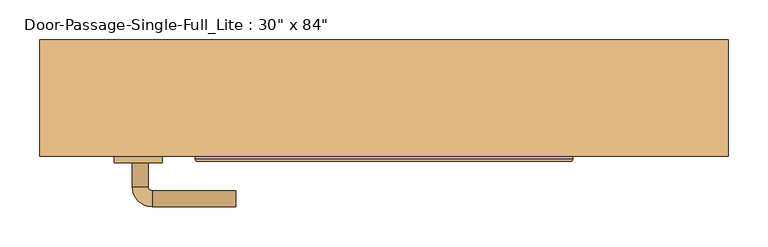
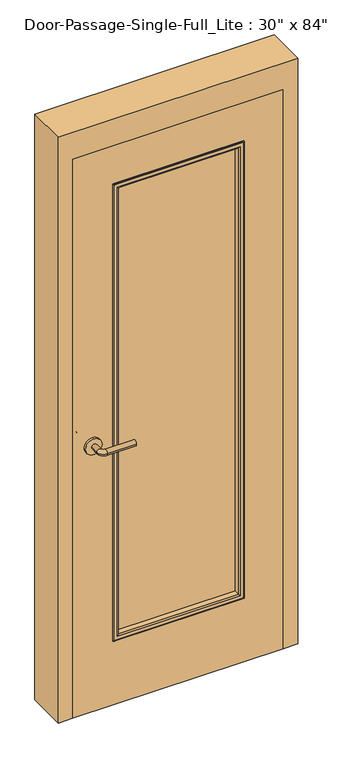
"""IFC4 building model written with IfcOpenShell, lengths in millimetres: door geometry."""

from ifc_helpers import new_model, si_unit, point, frame, frame_2d, origin, place, context, project, spatial, polyline, circle_curve, ellipse_curve, trimmed, segment, composite_curve, outline, extrude, faceted_brep, source, transform, mapped, element, save
from ifc_brep_helpers import plane_surface, cylinder_surface, revolved_surface, advanced_brep


def door_6cd5b398(model_context):
    return source(origin(), model_context, "Body", "SolidModel", [
        advanced_brep(
        [(-315.990625, -80.9, 1016.0), (-295.990625, -80.9, 1016.0), (-315.990625, -50.9, 1016.0), (-295.990625, -50.9, 1016.0), (-290.990625, -45.9, 1016.0), (-290.990625, -25.9, 1016.0), (-185.990625, -25.9, 1016.0), (-185.990625, -45.9, 1016.0)],
        [
            (0, 1, circle_curve(frame((-305.990625, -80.9, 1016.0), z_axis=(0.0, -1.0, 0.0), x_axis=(1.0, 0.0, 0.0)), 10.0)),
            (1, 0, circle_curve(frame((-305.990625, -80.9, 1016.0), z_axis=(0.0, -1.0, 0.0), x_axis=(1.0, 0.0, 0.0)), 10.0)),
            (0, 2),
            (2, 3, circle_curve(frame((-305.990625, -50.9, 1016.0), z_axis=(0.0, -1.0, 0.0), x_axis=(1.0, 0.0, 0.0)), 10.0)),
            (3, 1),
            (3, 2, circle_curve(frame((-305.990625, -50.9, 1016.0), z_axis=(0.0, -1.0, 0.0), x_axis=(1.0, 0.0, 0.0)), 10.0)),
            (4, 3, circle_curve(frame((-290.990625, -50.9, 1016.0), z_axis=(0.0, 0.0, 1.0), x_axis=(-1.0, 0.0, 0.0)), 5.0)),
            (2, 5, circle_curve(frame((-290.990625, -50.9, 1016.0), z_axis=(0.0, 0.0, -1.0), x_axis=(-1.0, 0.0, 0.0)), 25.0)),
            (5, 4, circle_curve(frame((-290.990625, -35.9, 1016.0), z_axis=(-1.0, 0.0, 0.0), x_axis=(0.0, -1.0, 0.0)), 10.0)),
            (4, 5, circle_curve(frame((-290.990625, -35.9, 1016.0), z_axis=(-1.0, 0.0, 0.0), x_axis=(0.0, -1.0, 0.0)), 10.0)),
            (6, 7, circle_curve(frame((-185.990625, -35.9, 1016.0), z_axis=(1.0, 0.0, 0.0), x_axis=(0.0, -1.0, 0.0)), 10.0)),
            (7, 6, circle_curve(frame((-185.990625, -35.9, 1016.0), z_axis=(1.0, 0.0, 0.0), x_axis=(0.0, -1.0, 0.0)), 10.0)),
            (5, 6),
            (7, 4),
        ],
        [
            plane_surface(frame((-305.990625, -80.9, 1016.0), z_axis=(0.0, -1.0, 0.0), x_axis=(0.0, 0.0, 1.0))),
            cylinder_surface(frame((-305.990625, -80.9, 1016.0), z_axis=(0.0, -1.0, 0.0), x_axis=(1.0, 0.0, 0.0)), 10.0),
            revolved_surface(trimmed(ellipse_curve(frame((-305.990625, -50.9, 1016.0), z_axis=(0.0, -1.0, 0.0), x_axis=(1.0, 0.0, 0.0)), 10.0, 10.0), [point((-315.990625, -50.9, 1016.0))], [point((-295.990625, -50.9, 1016.0))], True, "CARTESIAN"), (-290.990625, -50.9, 1016.0), (0.0, 0.0, -1.0)),
            revolved_surface(trimmed(ellipse_curve(frame((-305.990625, -50.9, 1016.0), z_axis=(0.0, -1.0, 0.0), x_axis=(1.0, 0.0, 0.0)), 10.0, 10.0), [point((-295.990625, -50.9, 1016.0))], [point((-315.990625, -50.9, 1016.0))], True, "CARTESIAN"), (-290.990625, -50.9, 1016.0), (0.0, 0.0, -1.0)),
            plane_surface(frame((-185.990625, -35.9, 1016.0), z_axis=(1.0, 0.0, 0.0), x_axis=(0.0, 0.0, 1.0))),
            cylinder_surface(frame((-290.990625, -35.9, 1016.0), z_axis=(-1.0, 0.0, 0.0), x_axis=(0.0, -1.0, 0.0)), 10.0),
        ],
        [
            (0, [[1, 2]]),
            (1, [[-1, 3, 4, 5]]),
            (1, [[-2, -5, 6, -3]]),
            (2, [[7, -4, 8, 9]]),
            (3, [[-8, -6, -7, 10]]),
            (4, [[11, 12]]),
            (5, [[-9, 13, -12, 14]]),
            (5, [[-10, -14, -11, -13]]),
        ],
    ),
        extrude(outline(composite_curve([segment(trimmed(circle_curve(frame_2d((1016.0, -308.490625)), 30.0), [point((1016.0, -338.490625))], [point((1016.0, -278.490625))], False, "CARTESIAN"), True, "CONTINUOUS"), segment(trimmed(circle_curve(frame_2d((1016.0, -308.490625)), 30.0), [point((1016.0, -278.490625))], [point((1016.0, -338.490625))], False, "CARTESIAN"), True, "CONTINUOUS")], self_intersect=False)), frame((0.0, -88.9, 0.0), z_axis=(0.0, 1.0, 0.0), x_axis=(0.0, 0.0, 1.0)), (0.0, 0.0, 1.0), 8.0),
        advanced_brep(
        [(-315.990625, -141.35, 1016.0), (-295.990625, -141.35, 1016.0), (-295.990625, -171.35, 1016.0), (-315.990625, -171.35, 1016.0), (-290.990625, -176.35, 1016.0), (-290.990625, -196.35, 1016.0), (-185.990625, -196.35, 1016.0), (-185.990625, -176.35, 1016.0)],
        [
            (0, 1, circle_curve(frame((-305.990625, -141.35, 1016.0), z_axis=(0.0, 1.0, 0.0), x_axis=(1.0, 0.0, 0.0)), 10.0)),
            (1, 0, circle_curve(frame((-305.990625, -141.35, 1016.0), z_axis=(0.0, 1.0, 0.0), x_axis=(1.0, 0.0, 0.0)), 10.0)),
            (1, 2),
            (2, 3, circle_curve(frame((-305.990625, -171.35, 1016.0), z_axis=(0.0, 1.0, 0.0), x_axis=(1.0, 0.0, 0.0)), 10.0)),
            (3, 0),
            (3, 2, circle_curve(frame((-305.990625, -171.35, 1016.0), z_axis=(0.0, 1.0, 0.0), x_axis=(1.0, 0.0, 0.0)), 10.0)),
            (4, 5, circle_curve(frame((-290.990625, -186.35, 1016.0), z_axis=(-1.0, 0.0, 0.0), x_axis=(0.0, 1.0, 0.0)), 10.0)),
            (5, 3, circle_curve(frame((-290.990625, -171.35, 1016.0), z_axis=(0.0, 0.0, -1.0), x_axis=(-1.0, 0.0, 0.0)), 25.0)),
            (2, 4, circle_curve(frame((-290.990625, -171.35, 1016.0), z_axis=(0.0, 0.0, 1.0), x_axis=(-1.0, 0.0, 0.0)), 5.0)),
            (5, 4, circle_curve(frame((-290.990625, -186.35, 1016.0), z_axis=(-1.0, 0.0, 0.0), x_axis=(0.0, 1.0, 0.0)), 10.0)),
            (6, 7, circle_curve(frame((-185.990625, -186.35, 1016.0), z_axis=(1.0, 0.0, 0.0), x_axis=(0.0, 1.0, 0.0)), 10.0)),
            (7, 6, circle_curve(frame((-185.990625, -186.35, 1016.0), z_axis=(1.0, 0.0, 0.0), x_axis=(0.0, 1.0, 0.0)), 10.0)),
            (4, 7),
            (6, 5),
        ],
        [
            plane_surface(frame((-305.990625, -141.35, 1016.0), z_axis=(0.0, 1.0, 0.0), x_axis=(0.0, 0.0, 1.0))),
            cylinder_surface(frame((-305.990625, -141.35, 1016.0), z_axis=(0.0, 1.0, 0.0), x_axis=(1.0, 0.0, 0.0)), 10.0),
            revolved_surface(trimmed(ellipse_curve(frame((-305.990625, -171.35, 1016.0), z_axis=(0.0, -1.0, 0.0), x_axis=(1.0, 0.0, 0.0)), 10.0, 10.0), [point((-315.990625, -171.35, 1016.0))], [point((-295.990625, -171.35, 1016.0))], True, "CARTESIAN"), (-290.990625, -171.35, 1016.0), (0.0, 0.0, -1.0)),
            revolved_surface(trimmed(ellipse_curve(frame((-305.990625, -171.35, 1016.0), z_axis=(0.0, -1.0, 0.0), x_axis=(1.0, 0.0, 0.0)), 10.0, 10.0), [point((-295.990625, -171.35, 1016.0))], [point((-315.990625, -171.35, 1016.0))], True, "CARTESIAN"), (-290.990625, -171.35, 1016.0), (0.0, 0.0, -1.0)),
            plane_surface(frame((-185.990625, -186.35, 1016.0), z_axis=(1.0, 0.0, 0.0), x_axis=(0.0, 0.0, 1.0))),
            cylinder_surface(frame((-290.990625, -186.35, 1016.0), z_axis=(-1.0, 0.0, 0.0), x_axis=(0.0, 1.0, 0.0)), 10.0),
        ],
        [
            (0, [[1, 2]]),
            (1, [[3, 4, 5, -2]]),
            (1, [[-5, 6, -3, -1]]),
            (2, [[7, 8, -4, 9]]),
            (3, [[10, -9, -6, -8]]),
            (4, [[11, 12]]),
            (5, [[13, -11, 14, -7]]),
            (5, [[-14, -12, -13, -10]]),
        ],
    ),
        extrude(outline(composite_curve([segment(trimmed(circle_curve(frame_2d((1016.0, -308.490625)), 30.0), [point((1016.0, -338.490625))], [point((1016.0, -278.490625))], False, "CARTESIAN"), True, "CONTINUOUS"), segment(trimmed(circle_curve(frame_2d((1016.0, -308.490625)), 30.0), [point((1016.0, -278.490625))], [point((1016.0, -338.490625))], False, "CARTESIAN"), True, "CONTINUOUS")], self_intersect=False)), frame((0.0, -141.35, 0.0), z_axis=(0.0, 1.0, 0.0), x_axis=(0.0, 0.0, 1.0)), (0.0, 0.0, 1.0), 8.0),
        extrude(outline(polyline([(228.6, -107.95), (228.6, -114.3), (-228.6, -114.3), (-228.6, -107.95), (228.6, -107.95)])), frame((0.0, 0.0, 254.0), z_axis=(0.0, 0.0, 1.0), x_axis=(1.0, 0.0, 0.0)), (0.0, 0.0, 1.0), 1727.2),
        faceted_brep([(381.0, -84.1375, 0.0), (365.125, -84.1375, 0.0), (365.125, -36.5125, 0.0), (381.0, -36.5125, 0.0), (381.0, 12.7, 0.0), (431.8, 12.7, 0.0), (431.8, -133.35, 0.0), (381.0, -133.35, 0.0), (381.0, -133.35, 2133.6), (381.0, -84.1375, 2133.6), (431.8, -133.35, 2235.2), (-431.8, -133.35, 2235.2), (-431.8, -133.35, 0.0), (-381.0, -133.35, 0.0), (-381.0, -133.35, 2133.6), (431.8, 12.7, 2235.2), (381.0, 12.7, 2133.6), (-381.0, 12.7, 2133.6), (-381.0, 12.7, 0.0), (-431.8, 12.7, 0.0), (-431.8, 12.7, 2235.2), (381.0, -36.5125, 2133.6), (365.125, -36.5125, 2117.725), (-365.125, -36.5125, 2117.725), (-365.125, -36.5125, 0.0), (-381.0, -36.5125, 0.0), (-381.0, -36.5125, 2133.6), (365.125, -84.1375, 2117.725), (-381.0, -84.1375, 2133.6), (-381.0, -84.1375, 0.0), (-365.125, -84.1375, 0.0), (-365.125, -84.1375, 2117.725)], [[[0, 1, 2, 3, 4, 5, 6, 7]], [[7, 8, 9, 0]], [[6, 10, 11, 12, 13, 14, 8, 7]], [[5, 15, 10, 6]], [[4, 16, 17, 18, 19, 20, 15, 5]], [[3, 21, 16, 4]], [[2, 22, 23, 24, 25, 26, 21, 3]], [[1, 27, 22, 2]], [[0, 9, 28, 29, 30, 31, 27, 1]], [[8, 14, 28, 9]], [[16, 21, 26, 17]], [[22, 27, 31, 23]], [[12, 19, 18, 25, 24, 30, 29, 13]], [[13, 29, 28, 14]], [[11, 20, 19, 12]], [[17, 26, 25, 18]], [[23, 31, 30, 24]], [[15, 20, 11, 10]]]),
        extrude(outline(polyline([(2133.6, -381.0), (0.0, -381.0), (0.0, 381.0), (2133.6, 381.0), (2133.6, -381.0)]), holes=[polyline([(1981.2, -228.6), (1981.2, 228.6), (254.0, 228.6), (254.0, -228.6), (1981.2, -228.6)])]), frame((0.0, -133.35, 0.0), z_axis=(0.0, 1.0, 0.0), x_axis=(0.0, 0.0, 1.0)), (0.0, 0.0, 1.0), 44.45),
        advanced_brep(
        [(-228.6, -114.3, 1981.2), (-228.6, -114.3, 254.0), (-228.6, -133.35, 254.0), (-228.6, -133.35, 1981.2), (-216.6, -134.35, 1969.2), (-216.6, -134.35, 266.0), (-216.6, -114.3, 266.0), (-216.6, -114.3, 1969.2), (-221.6, -139.35, 1974.2), (-221.6, -139.35, 261.0), (-236.6, -137.35, 1989.2), (-236.6, -137.35, 246.0), (-234.6, -139.35, 248.0), (-234.6, -139.35, 1987.2), (-236.6, -133.35, 1989.2), (-236.6, -133.35, 246.0), (228.6, -114.3, 254.0), (228.6, -133.35, 254.0), (216.6, -134.35, 266.0), (216.6, -114.3, 266.0), (221.6, -139.35, 261.0), (236.6, -137.35, 246.0), (234.6, -139.35, 248.0), (236.6, -133.35, 246.0), (228.6, -114.3, 1981.2), (228.6, -133.35, 1981.2), (216.6, -134.35, 1969.2), (216.6, -114.3, 1969.2), (221.6, -139.35, 1974.2), (236.6, -137.35, 1989.2), (234.6, -139.35, 1987.2), (236.6, -133.35, 1989.2)],
        [
            (0, 1),
            (1, 2),
            (2, 3),
            (3, 0),
            (4, 5),
            (5, 6),
            (6, 7),
            (7, 4),
            (8, 9),
            (9, 5, ellipse_curve(frame((-221.6, -134.35, 261.0), z_axis=(-0.7071067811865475, 0.0, 0.7071067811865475), x_axis=(0.7071067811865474, 0.0, 0.7071067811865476)), 7.0710678, 5.0)),
            (4, 8, ellipse_curve(frame((-221.6, -134.35, 1974.2), z_axis=(-0.7071067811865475, 0.0, -0.7071067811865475), x_axis=(-0.7071067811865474, 0.0, 0.7071067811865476)), 7.0710678, 5.0)),
            (10, 11),
            (11, 12, ellipse_curve(frame((-234.6, -137.35, 248.0), z_axis=(-0.7071067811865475, 0.0, 0.7071067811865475), x_axis=(0.7071067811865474, 0.0, 0.7071067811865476)), 2.8284271, 2.0)),
            (12, 13),
            (13, 10, ellipse_curve(frame((-234.6, -137.35, 1987.2), z_axis=(-0.7071067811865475, 0.0, -0.7071067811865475), x_axis=(-0.7071067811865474, 0.0, 0.7071067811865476)), 2.8284271, 2.0)),
            (14, 15),
            (15, 11),
            (10, 14),
            (1, 16),
            (16, 17),
            (17, 2),
            (5, 18),
            (18, 19),
            (19, 6),
            (9, 20),
            (20, 18, ellipse_curve(frame((221.6, -134.35, 261.0), z_axis=(-0.7071067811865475, 0.0, -0.7071067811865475), x_axis=(-0.7071067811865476, 0.0, 0.7071067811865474)), 7.0710678, 5.0)),
            (11, 21),
            (21, 22, ellipse_curve(frame((234.6, -137.35, 248.0), z_axis=(-0.7071067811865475, 0.0, -0.7071067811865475), x_axis=(-0.7071067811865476, 0.0, 0.7071067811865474)), 2.8284271, 2.0)),
            (22, 12),
            (15, 23),
            (23, 21),
            (16, 24),
            (24, 25),
            (25, 17),
            (18, 26),
            (26, 27),
            (27, 19),
            (20, 28),
            (28, 26, ellipse_curve(frame((221.6, -134.35, 1974.2), z_axis=(0.7071067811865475, 0.0, -0.7071067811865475), x_axis=(-0.7071067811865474, 0.0, -0.7071067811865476)), 7.0710678, 5.0)),
            (21, 29),
            (29, 30, ellipse_curve(frame((234.6, -137.35, 1987.2), z_axis=(0.7071067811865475, 0.0, -0.7071067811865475), x_axis=(-0.7071067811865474, 0.0, -0.7071067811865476)), 2.8284271, 2.0)),
            (30, 22),
            (23, 31),
            (31, 29),
            (14, 31),
            (25, 3),
            (24, 0),
            (27, 7),
            (26, 4),
            (28, 8),
            (30, 13),
            (29, 10),
        ],
        [
            plane_surface(frame((-228.6, -133.35, 1981.2), z_axis=(-1.0, 0.0, 0.0), x_axis=(0.0, 0.0, -1.0))),
            plane_surface(frame((-216.6, -114.3, 1969.2), z_axis=(1.0, 0.0, 0.0), x_axis=(0.0, 0.0, -1.0))),
            cylinder_surface(frame((-221.6, -134.35, 1981.2), z_axis=(0.0, 0.0, 1.0), x_axis=(-1.0, 0.0, 0.0)), 5.0),
            cylinder_surface(frame((-234.6, -137.35, 1981.2), z_axis=(0.0, 0.0, 1.0), x_axis=(-1.0, 0.0, 0.0)), 2.0),
            plane_surface(frame((-236.6, -137.35, 1989.2), z_axis=(-1.0, 0.0, 0.0), x_axis=(0.0, 0.0, -1.0))),
            plane_surface(frame((-228.6, -133.35, 254.0), z_axis=(0.0, 0.0, -1.0), x_axis=(1.0, 0.0, 0.0))),
            plane_surface(frame((-216.6, -114.3, 266.0), z_axis=(0.0, 0.0, 1.0), x_axis=(1.0, 0.0, 0.0))),
            cylinder_surface(frame((-228.6, -134.35, 261.0), z_axis=(-1.0, 0.0, 0.0), x_axis=(0.0, 0.0, -1.0)), 5.0),
            cylinder_surface(frame((-228.6, -137.35, 248.0), z_axis=(-1.0, 0.0, 0.0), x_axis=(0.0, 0.0, -1.0)), 2.0),
            plane_surface(frame((-236.6, -137.35, 246.0), z_axis=(0.0, 0.0, -1.0), x_axis=(1.0, 0.0, 0.0))),
            plane_surface(frame((228.6, -133.35, 254.0), z_axis=(1.0, 0.0, 0.0), x_axis=(0.0, 0.0, 1.0))),
            plane_surface(frame((216.6, -114.3, 266.0), z_axis=(-1.0, 0.0, 0.0), x_axis=(0.0, 0.0, 1.0))),
            cylinder_surface(frame((221.6, -134.35, 254.0), z_axis=(0.0, 0.0, -1.0), x_axis=(1.0, 0.0, 0.0)), 5.0),
            cylinder_surface(frame((234.6, -137.35, 254.0), z_axis=(0.0, 0.0, -1.0), x_axis=(1.0, 0.0, 0.0)), 2.0),
            plane_surface(frame((236.6, -137.35, 246.0), z_axis=(1.0, 0.0, 0.0), x_axis=(0.0, 0.0, 1.0))),
            plane_surface(frame((236.6, -133.35, 1989.2), z_axis=(0.0, 1.0, 0.0), x_axis=(-1.0, 0.0, 0.0))),
            plane_surface(frame((228.6, -133.35, 1981.2), z_axis=(0.0, 0.0, 1.0), x_axis=(-1.0, 0.0, 0.0))),
            plane_surface(frame((228.6, -114.3, 1981.2), z_axis=(0.0, 1.0, 0.0), x_axis=(-1.0, 0.0, 0.0))),
            plane_surface(frame((216.6, -114.3, 1969.2), z_axis=(0.0, 0.0, -1.0), x_axis=(-1.0, 0.0, 0.0))),
            cylinder_surface(frame((228.6, -134.35, 1974.2), z_axis=(1.0, 0.0, 0.0), x_axis=(0.0, 0.0, 1.0)), 5.0),
            plane_surface(frame((221.6, -139.35, 1974.2), z_axis=(0.0, -1.0, 0.0), x_axis=(-1.0, 0.0, 0.0))),
            cylinder_surface(frame((228.6, -137.35, 1987.2), z_axis=(1.0, 0.0, 0.0), x_axis=(0.0, 0.0, 1.0)), 2.0),
            plane_surface(frame((236.6, -137.35, 1989.2), z_axis=(0.0, 0.0, 1.0), x_axis=(-1.0, 0.0, 0.0))),
        ],
        [
            (0, [[1, 2, 3, 4]]),
            (1, [[5, 6, 7, 8]]),
            (2, [[9, 10, -5, 11]]),
            (3, [[12, 13, 14, 15]]),
            (4, [[16, 17, -12, 18]]),
            (5, [[19, 20, 21, -2]]),
            (6, [[22, 23, 24, -6]]),
            (7, [[25, 26, -22, -10]]),
            (8, [[27, 28, 29, -13]]),
            (9, [[30, 31, -27, -17]]),
            (10, [[32, 33, 34, -20]]),
            (11, [[35, 36, 37, -23]]),
            (12, [[38, 39, -35, -26]]),
            (13, [[40, 41, 42, -28]]),
            (14, [[43, 44, -40, -31]]),
            (15, [[-16, 45, -43, -30], [-3, -21, -34, 46]]),
            (16, [[47, -4, -46, -33]]),
            (17, [[-1, -47, -32, -19], [-7, -24, -37, 48]]),
            (18, [[49, -8, -48, -36]]),
            (19, [[50, -11, -49, -39]]),
            (20, [[-14, -29, -42, 51], [-9, -50, -38, -25]]),
            (21, [[52, -15, -51, -41]]),
            (22, [[-45, -18, -52, -44]]),
        ],
    ),
        advanced_brep(
        [(-228.6, -107.95, 254.0), (-228.6, -107.95, 1981.2), (-228.6, -88.9, 1981.2), (-228.6, -88.9, 254.0), (-216.6, -87.9, 266.0), (-216.6, -87.9, 1969.2), (-216.6, -107.95, 1969.2), (-216.6, -107.95, 266.0), (-221.6, -82.9, 261.0), (-221.6, -82.9, 1974.2), (-236.6, -84.9, 246.0), (-236.6, -84.9, 1989.2), (-234.6, -82.9, 1987.2), (-234.6, -82.9, 248.0), (-236.6, -88.9, 246.0), (-236.6, -88.9, 1989.2), (228.6, -107.95, 1981.2), (228.6, -88.9, 1981.2), (216.6, -87.9, 1969.2), (216.6, -107.95, 1969.2), (221.6, -82.9, 1974.2), (236.6, -84.9, 1989.2), (234.6, -82.9, 1987.2), (236.6, -88.9, 1989.2), (228.6, -107.95, 254.0), (228.6, -88.9, 254.0), (216.6, -87.9, 266.0), (216.6, -107.95, 266.0), (221.6, -82.9, 261.0), (236.6, -84.9, 246.0), (234.6, -82.9, 248.0), (236.6, -88.9, 246.0)],
        [
            (0, 1),
            (1, 2),
            (2, 3),
            (3, 0),
            (4, 5),
            (5, 6),
            (6, 7),
            (7, 4),
            (8, 9),
            (9, 5, ellipse_curve(frame((-221.6, -87.9, 1974.2), z_axis=(-0.7071067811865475, 0.0, -0.7071067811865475), x_axis=(0.7071067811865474, 0.0, -0.7071067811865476)), 7.0710678, 5.0)),
            (4, 8, ellipse_curve(frame((-221.6, -87.9, 261.0), z_axis=(-0.7071067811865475, 0.0, 0.7071067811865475), x_axis=(-0.7071067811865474, 0.0, -0.7071067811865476)), 7.0710678, 5.0)),
            (10, 11),
            (11, 12, ellipse_curve(frame((-234.6, -84.9, 1987.2), z_axis=(-0.7071067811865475, 0.0, -0.7071067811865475), x_axis=(0.7071067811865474, 0.0, -0.7071067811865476)), 2.8284271, 2.0)),
            (12, 13),
            (13, 10, ellipse_curve(frame((-234.6, -84.9, 248.0), z_axis=(-0.7071067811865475, 0.0, 0.7071067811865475), x_axis=(-0.7071067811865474, 0.0, -0.7071067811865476)), 2.8284271, 2.0)),
            (14, 15),
            (15, 11),
            (10, 14),
            (1, 16),
            (16, 17),
            (17, 2),
            (5, 18),
            (18, 19),
            (19, 6),
            (9, 20),
            (20, 18, ellipse_curve(frame((221.6, -87.9, 1974.2), z_axis=(-0.7071067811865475, 0.0, 0.7071067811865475), x_axis=(-0.7071067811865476, 0.0, -0.7071067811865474)), 7.0710678, 5.0)),
            (11, 21),
            (21, 22, ellipse_curve(frame((234.6, -84.9, 1987.2), z_axis=(-0.7071067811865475, 0.0, 0.7071067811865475), x_axis=(-0.7071067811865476, 0.0, -0.7071067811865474)), 2.8284271, 2.0)),
            (22, 12),
            (15, 23),
            (23, 21),
            (16, 24),
            (24, 25),
            (25, 17),
            (18, 26),
            (26, 27),
            (27, 19),
            (20, 28),
            (28, 26, ellipse_curve(frame((221.6, -87.9, 261.0), z_axis=(0.7071067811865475, 0.0, 0.7071067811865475), x_axis=(-0.7071067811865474, 0.0, 0.7071067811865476)), 7.0710678, 5.0)),
            (21, 29),
            (29, 30, ellipse_curve(frame((234.6, -84.9, 248.0), z_axis=(0.7071067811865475, 0.0, 0.7071067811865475), x_axis=(-0.7071067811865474, 0.0, 0.7071067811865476)), 2.8284271, 2.0)),
            (30, 22),
            (23, 31),
            (31, 29),
            (14, 31),
            (25, 3),
            (24, 0),
            (27, 7),
            (26, 4),
            (28, 8),
            (30, 13),
            (29, 10),
        ],
        [
            plane_surface(frame((-228.6, -88.9, 254.0), z_axis=(-1.0, 0.0, 0.0), x_axis=(0.0, 0.0, 1.0))),
            plane_surface(frame((-216.6, -107.95, 266.0), z_axis=(1.0, 0.0, 0.0), x_axis=(0.0, 0.0, 1.0))),
            cylinder_surface(frame((-221.6, -87.9, 254.0), z_axis=(0.0, 0.0, -1.0), x_axis=(-1.0, 0.0, 0.0)), 5.0),
            cylinder_surface(frame((-234.6, -84.9, 254.0), z_axis=(0.0, 0.0, -1.0), x_axis=(-1.0, 0.0, 0.0)), 2.0),
            plane_surface(frame((-236.6, -84.9, 246.0), z_axis=(-1.0, 0.0, 0.0), x_axis=(0.0, 0.0, 1.0))),
            plane_surface(frame((-228.6, -88.9, 1981.2), z_axis=(0.0, 0.0, 1.0), x_axis=(1.0, 0.0, 0.0))),
            plane_surface(frame((-216.6, -107.95, 1969.2), z_axis=(0.0, 0.0, -1.0), x_axis=(1.0, 0.0, 0.0))),
            cylinder_surface(frame((-228.6, -87.9, 1974.2), z_axis=(-1.0, 0.0, 0.0), x_axis=(0.0, 0.0, 1.0)), 5.0),
            cylinder_surface(frame((-228.6, -84.9, 1987.2), z_axis=(-1.0, 0.0, 0.0), x_axis=(0.0, 0.0, 1.0)), 2.0),
            plane_surface(frame((-236.6, -84.9, 1989.2), z_axis=(0.0, 0.0, 1.0), x_axis=(1.0, 0.0, 0.0))),
            plane_surface(frame((228.6, -88.9, 1981.2), z_axis=(1.0, 0.0, 0.0), x_axis=(0.0, 0.0, -1.0))),
            plane_surface(frame((216.6, -107.95, 1969.2), z_axis=(-1.0, 0.0, 0.0), x_axis=(0.0, 0.0, -1.0))),
            cylinder_surface(frame((221.6, -87.9, 1981.2), z_axis=(0.0, 0.0, 1.0), x_axis=(1.0, 0.0, 0.0)), 5.0),
            cylinder_surface(frame((234.6, -84.9, 1981.2), z_axis=(0.0, 0.0, 1.0), x_axis=(1.0, 0.0, 0.0)), 2.0),
            plane_surface(frame((236.6, -84.9, 1989.2), z_axis=(1.0, 0.0, 0.0), x_axis=(0.0, 0.0, -1.0))),
            plane_surface(frame((236.6, -88.9, 246.0), z_axis=(0.0, -1.0, 0.0), x_axis=(-1.0, 0.0, 0.0))),
            plane_surface(frame((228.6, -88.9, 254.0), z_axis=(0.0, 0.0, -1.0), x_axis=(-1.0, 0.0, 0.0))),
            plane_surface(frame((228.6, -107.95, 254.0), z_axis=(0.0, -1.0, 0.0), x_axis=(-1.0, 0.0, 0.0))),
            plane_surface(frame((216.6, -107.95, 266.0), z_axis=(0.0, 0.0, 1.0), x_axis=(-1.0, 0.0, 0.0))),
            cylinder_surface(frame((228.6, -87.9, 261.0), z_axis=(1.0, 0.0, 0.0), x_axis=(0.0, 0.0, -1.0)), 5.0),
            plane_surface(frame((221.6, -82.9, 261.0), z_axis=(0.0, 1.0, 0.0), x_axis=(-1.0, 0.0, 0.0))),
            cylinder_surface(frame((228.6, -84.9, 248.0), z_axis=(1.0, 0.0, 0.0), x_axis=(0.0, 0.0, -1.0)), 2.0),
            plane_surface(frame((236.6, -84.9, 246.0), z_axis=(0.0, 0.0, -1.0), x_axis=(-1.0, 0.0, 0.0))),
        ],
        [
            (0, [[1, 2, 3, 4]]),
            (1, [[5, 6, 7, 8]]),
            (2, [[9, 10, -5, 11]]),
            (3, [[12, 13, 14, 15]]),
            (4, [[16, 17, -12, 18]]),
            (5, [[19, 20, 21, -2]]),
            (6, [[22, 23, 24, -6]]),
            (7, [[25, 26, -22, -10]]),
            (8, [[27, 28, 29, -13]]),
            (9, [[30, 31, -27, -17]]),
            (10, [[32, 33, 34, -20]]),
            (11, [[35, 36, 37, -23]]),
            (12, [[38, 39, -35, -26]]),
            (13, [[40, 41, 42, -28]]),
            (14, [[43, 44, -40, -31]]),
            (15, [[-16, 45, -43, -30], [-3, -21, -34, 46]]),
            (16, [[47, -4, -46, -33]]),
            (17, [[-1, -47, -32, -19], [-7, -24, -37, 48]]),
            (18, [[49, -8, -48, -36]]),
            (19, [[50, -11, -49, -39]]),
            (20, [[-14, -29, -42, 51], [-9, -50, -38, -25]]),
            (21, [[52, -15, -51, -41]]),
            (22, [[-45, -18, -52, -44]]),
        ],
    ),
    ])


if __name__ == "__main__":
    model = new_model("IFC4")
    model_context = context("Model", 3, world=origin())
    ifc_project = project(units=[si_unit("LENGTHUNIT", "METRE", prefix="MILLI")], contexts=[model_context])
    site = spatial("IfcSite", under=ifc_project)
    building = spatial("IfcBuilding", under=site)
    placement = place(None, origin())
    door_shape = door_6cd5b398(model_context)
    element("IfcDoor", 1, ObjectType="Door-Passage-Single-Full_Lite : 30\" x 84\"", at=placement, inside=building, context=model_context, shape_type="MappedRepresentation", body=[
        mapped(door_shape, transform((0.0, 0.0, 0.0), x_axis=(1.0, 0.0, 0.0), y_axis=(0.0, 1.0, 0.0), z_axis=(0.0, 0.0, 1.0))),
    ])
    save(model, "model.ifc")
